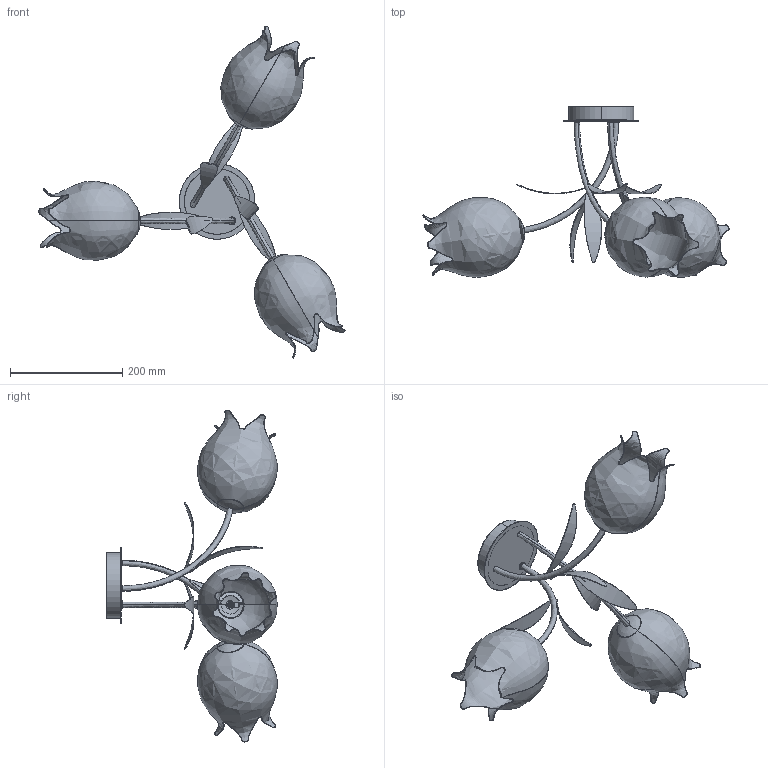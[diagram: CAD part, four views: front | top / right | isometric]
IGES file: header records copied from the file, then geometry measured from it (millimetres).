
Start section: SolidWorks IGES file using analytic representation for surfaces
Global section: file name: F:\燠隴矨\3D\2026-3\Ricko Ceiling Light-3heads.IGS,15; native system: HSolidWorks 2022; preprocessor: SolidWorks 2022; author: MyPC; date: 260311.090446; units: millimetre
Bounding box: 546.68 x 304.8 x 592.81 mm (x, y, z)
Surface area: 528656 mm2 (no closed solid volume)
Topology: 0 solids, 0 shells, 889 faces, 12541 edges, 12538 vertices
Faces by surface type: bspline 668, revolution 221
